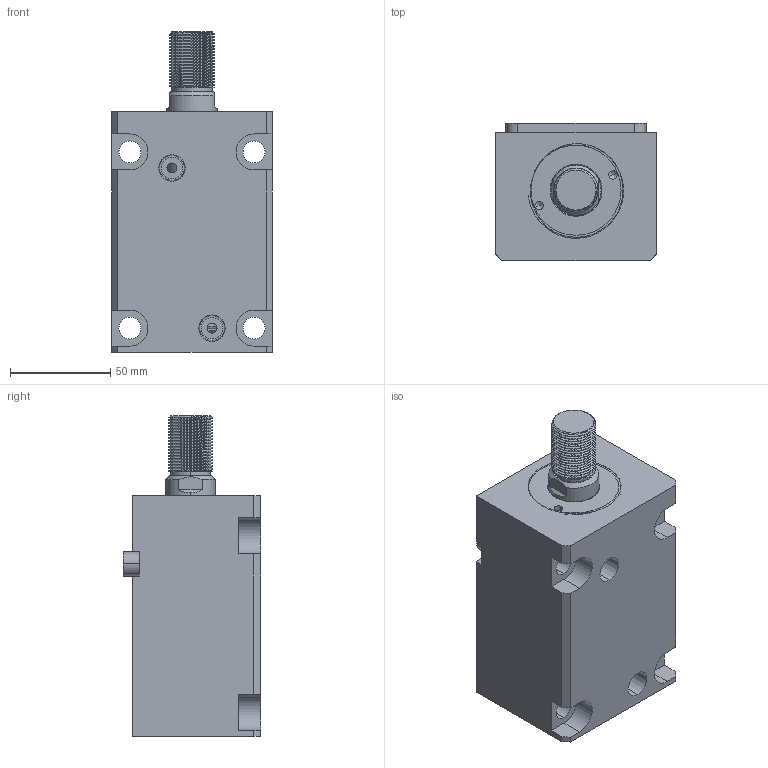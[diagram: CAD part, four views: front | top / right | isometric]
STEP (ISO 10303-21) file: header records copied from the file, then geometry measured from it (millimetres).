
FILE_DESCRIPTION (( 'STEP AP214' ), '1' );
FILE_NAME ('chtb-la40x65w_asm.STEP', '2018-06-02T07:49:14', ( 'Windows' ), ( 'Microsoft' ), 'SwSTEP 2.0', 'SolidWorks 2015', '' );
FILE_SCHEMA (( 'AUTOMOTIVE_DESIGN' ));
Length unit declared in the file: millimetre
Products named in the file (5): CHTB-SD40QG; CHTB-LA40PJ; CHTB-SD40X65WHSG; CHTB-LA40X65NBT; chtb-la40x65w_asm
Assembly tree (4 placements, depth 2):
  chtb-la40x65w_asm
    CHTB-LA40X65NBT
    CHTB-SD40X65WHSG
    CHTB-LA40PJ
    CHTB-SD40QG
Bounding box: 80 x 68.5 x 160 mm (x, y, z)
Volume: 542293.3 mm3; surface area: 99216.8 mm2
Topology: 4 solids, 5 shells, 205 faces, 559 edges, 373 vertices
Faces by surface type: cylinder 111, plane 52, bspline 16, cone 14, torus 12
Entity records: 13775 total; most frequent: CARTESIAN_POINT 8706, ORIENTED_EDGE 1106, DIRECTION 926, EDGE_CURVE 553, VERTEX_POINT 373, AXIS2_PLACEMENT_3D 363, EDGE_LOOP 234, ADVANCED_FACE 205
